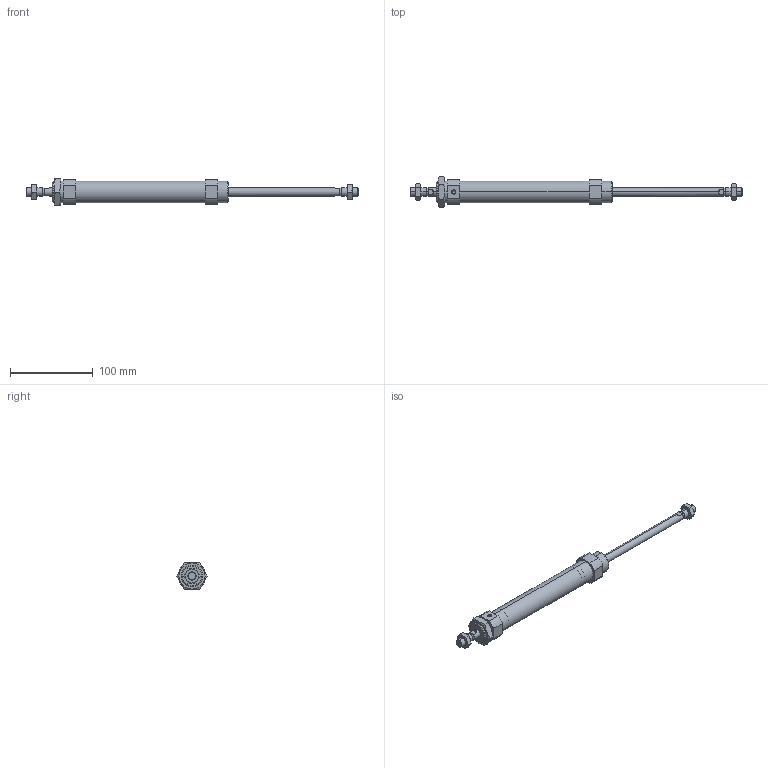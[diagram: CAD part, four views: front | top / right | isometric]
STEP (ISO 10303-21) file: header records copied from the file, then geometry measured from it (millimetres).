
FILE_DESCRIPTION (( 'STEP AP203' ), '1' );
FILE_NAME ('CSM2B25-125-P.STEP', '2020-07-20T16:43:43', ( '' ), ( '' ), 'SwSTEP 2.0', 'SolidWorks 2019', '' );
FILE_SCHEMA (( 'CONFIG_CONTROL_DESIGN' ));
Length unit declared in the file: millimetre
Products named in the file (1): CSM2B25-125-P
Bounding box: 402 x 36.95 x 32 mm (x, y, z)
Volume: 92761.5 mm3; surface area: 52050.4 mm2
Topology: 5 solids, 5 shells, 152 faces, 356 edges, 223 vertices
Faces by surface type: plane 62, cylinder 46, cone 44
Entity records: 5359 total; most frequent: CARTESIAN_POINT 1800, DIRECTION 738, ORIENTED_EDGE 708, EDGE_CURVE 354, AXIS2_PLACEMENT_3D 291, VERTEX_POINT 223, EDGE_LOOP 175, VECTOR 156
